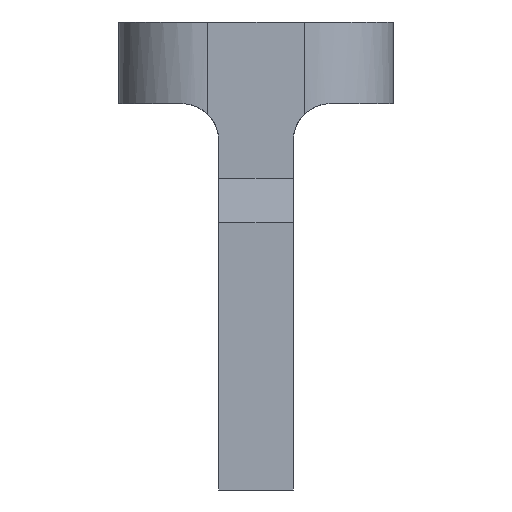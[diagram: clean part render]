
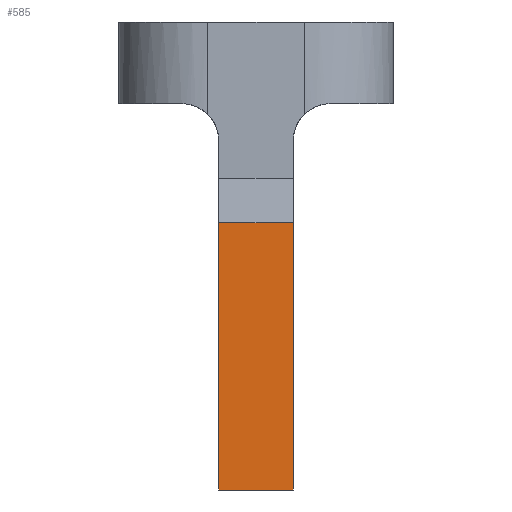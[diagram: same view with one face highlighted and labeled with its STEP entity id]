
A CAD part, left-side view. The second image highlights one B-rep face of the part: STEP entity #585.
In plain terms, the highlighted planar face has unit normal (-1, 0, 0).
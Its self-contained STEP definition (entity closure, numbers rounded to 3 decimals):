
#299 = VERTEX_POINT ( 'NONE', #2060 ) ;
#319 = CARTESIAN_POINT ( 'NONE',  ( -179., 63.25, -123.5 ) ) ;
#406 = LINE ( 'NONE', #2229, #5662 ) ;
#569 = ORIENTED_EDGE ( 'NONE', *, *, #3459, .T. ) ;
#585 = ADVANCED_FACE ( 'NONE', ( #5654 ), #2239, .T. ) ;
#683 = EDGE_CURVE ( 'NONE', #5619, #4720, #4243, .T. ) ;
#939 = VECTOR ( 'NONE', #3464, 1000. ) ;
#1047 = EDGE_CURVE ( 'NONE', #299, #4179, #1167, .T. ) ;
#1167 = LINE ( 'NONE', #5191, #4689 ) ;
#1270 = CARTESIAN_POINT ( 'NONE',  ( -179., 63.25, -123.5 ) ) ;
#1551 = CARTESIAN_POINT ( 'NONE',  ( -179., 63.25, -123.5 ) ) ;
#2060 = CARTESIAN_POINT ( 'NONE',  ( -179., 53.25, -123.5 ) ) ;
#2229 = CARTESIAN_POINT ( 'NONE',  ( -179., 63.25, -159.5 ) ) ;
#2239 = PLANE ( 'NONE',  #2258 ) ;
#2258 = AXIS2_PLACEMENT_3D ( 'NONE', #319, #4631, #4167 ) ;
#2711 = DIRECTION ( 'NONE',  ( 0., -1., 0. ) ) ;
#2925 = EDGE_CURVE ( 'NONE', #5619, #299, #5874, .T. ) ;
#3202 = DIRECTION ( 'NONE',  ( 0., -1., 0. ) ) ;
#3453 = EDGE_LOOP ( 'NONE', ( #569, #5085, #3751, #5073 ) ) ;
#3459 = EDGE_CURVE ( 'NONE', #4720, #4179, #406, .T. ) ;
#3464 = DIRECTION ( 'NONE',  ( 0., 0., -1. ) ) ;
#3751 = ORIENTED_EDGE ( 'NONE', *, *, #2925, .F. ) ;
#3873 = CARTESIAN_POINT ( 'NONE',  ( -179., 63.25, -123.5 ) ) ;
#4167 = DIRECTION ( 'NONE',  ( 0., 1., 0. ) ) ;
#4179 = VERTEX_POINT ( 'NONE', #5225 ) ;
#4243 = LINE ( 'NONE', #1551, #939 ) ;
#4631 = DIRECTION ( 'NONE',  ( -1., 0., 0. ) ) ;
#4689 = VECTOR ( 'NONE', #5210, 1000. ) ;
#4720 = VERTEX_POINT ( 'NONE', #5174 ) ;
#4836 = VECTOR ( 'NONE', #2711, 1000. ) ;
#5073 = ORIENTED_EDGE ( 'NONE', *, *, #683, .T. ) ;
#5085 = ORIENTED_EDGE ( 'NONE', *, *, #1047, .F. ) ;
#5174 = CARTESIAN_POINT ( 'NONE',  ( -179., 63.25, -159.5 ) ) ;
#5191 = CARTESIAN_POINT ( 'NONE',  ( -179., 53.25, -123.5 ) ) ;
#5210 = DIRECTION ( 'NONE',  ( 0., 0., -1. ) ) ;
#5225 = CARTESIAN_POINT ( 'NONE',  ( -179., 53.25, -159.5 ) ) ;
#5619 = VERTEX_POINT ( 'NONE', #3873 ) ;
#5654 = FACE_OUTER_BOUND ( 'NONE', #3453, .T. ) ;
#5662 = VECTOR ( 'NONE', #3202, 1000. ) ;
#5874 = LINE ( 'NONE', #1270, #4836 ) ;
